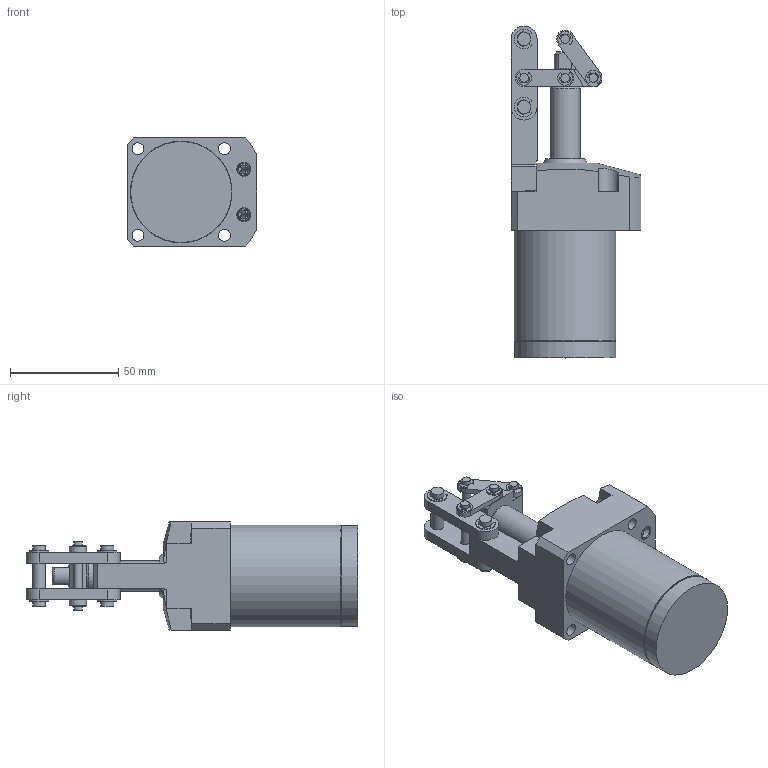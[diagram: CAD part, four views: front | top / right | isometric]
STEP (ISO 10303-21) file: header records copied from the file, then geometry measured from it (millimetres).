
FILE_DESCRIPTION( ( '' ), '1' );
FILE_NAME( 'W:/Catalogue/JLF5H/JLF5H28-34G/JLF5H28-34G.stp', '2008-05-26T02:34:15', ( '機械事業部産業機器グループ' ), ( '豊和工業株式会社' ), 'XStep 1.0', ' ', ' ' );
FILE_SCHEMA( ( 'CONFIG_CONTROL_DESIGN' ) );
Length unit declared in the file: millimetre
Products named in the file (7): Assem1; 1; 2; 3; 4; 5; 6
Bounding box: 60 x 153.5 x 50 mm (x, y, z)
Volume: 360933.6 mm3; surface area: 94756.1 mm2
Topology: 13 solids, 17 shells, 912 faces, 2365 edges, 1579 vertices
Faces by surface type: plane 496, cylinder 380, cone 34, torus 2
Full cylindrical faces by diameter (mm): 2 x2, 3 x16, 3.5 x2, 4 x44, 4.5 x2, 5.5 x12, 6 x14, 6.5 x4, 8.3 x4, 10 x2, 14 x4, 16 x2, 20 x2, 24 x4, 25 x2, 28 x2, 46 x2, 46.7 x2, 47 x2
Entity records: 13696 total; most frequent: CARTESIAN_POINT 2493, DIRECTION 2394, ORIENTED_EDGE 2082, EDGE_CURVE 1041, AXIS2_PLACEMENT_3D 916, VERTEX_POINT 735, EDGE_LOOP 600, LINE 562
